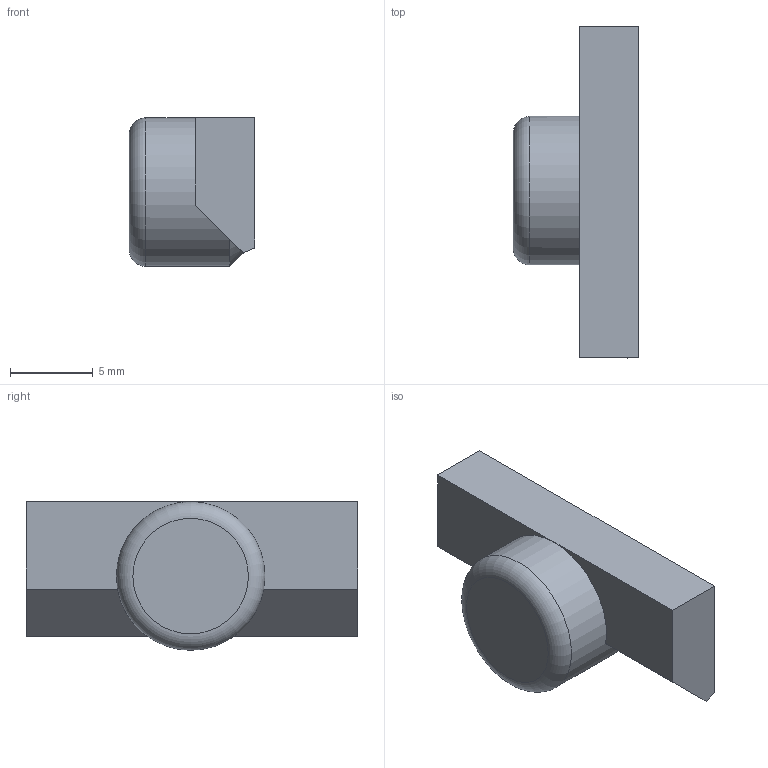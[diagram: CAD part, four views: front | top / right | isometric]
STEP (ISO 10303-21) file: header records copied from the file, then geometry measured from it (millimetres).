
FILE_DESCRIPTION(('HOOPS Exchange Step'),'2;1');
FILE_NAME('/private/var/mobile/Containers/Data/Application/BD34B793-0C88-4333-9201-EB529B1DDC1B/tmp/export/temp_export','2026-07-27T19:46:57+19:00',('mobile'),('Shapr3D Limited'),'HOOPS Exchange 2026.3','Shapr3D','Authorized');
FILE_SCHEMA( ('AP242_MANAGED_MODEL_BASED_3D_ENGINEERING_MIM_LF {1 0 10303 442 1 1 4}') );
Length unit declared in the file: millimetre
Products named in the file (1): root
Bounding box: 7.6 x 20.1 x 9.01 mm (x, y, z)
Volume: 791.2 mm3; surface area: 609 mm2
Topology: 1 solids, 1 shells, 13 faces, 32 edges, 21 vertices
Faces by surface type: plane 10, cylinder 1, torus 1, cone 1
Full cylindrical faces by diameter (mm): 9 x1
Entity records: 442 total; most frequent: CARTESIAN_POINT 95, DIRECTION 67, ORIENTED_EDGE 64, EDGE_CURVE 32, AXIS2_PLACEMENT_3D 24, VERTEX_POINT 21, VECTOR 19, LINE 19
